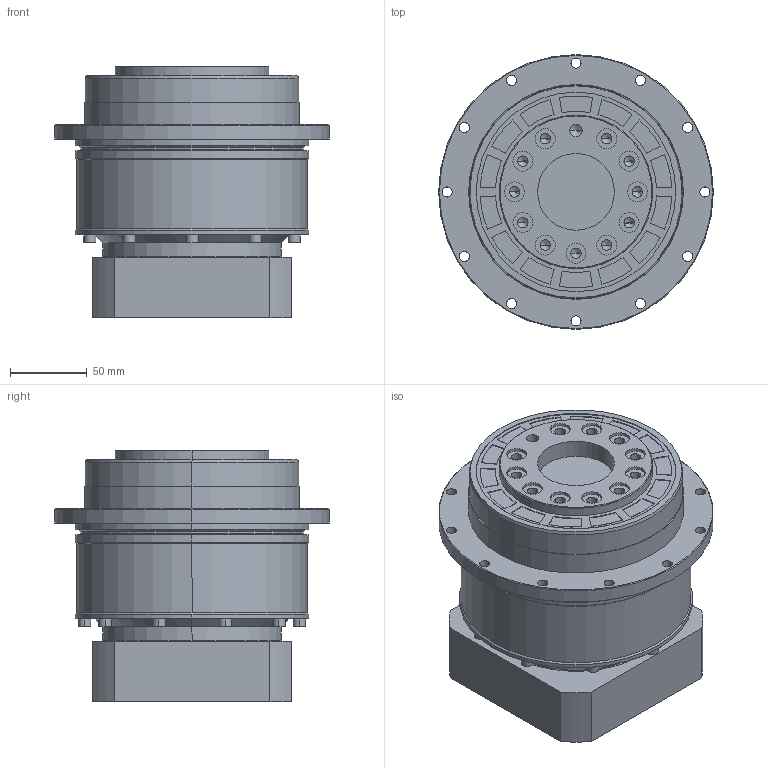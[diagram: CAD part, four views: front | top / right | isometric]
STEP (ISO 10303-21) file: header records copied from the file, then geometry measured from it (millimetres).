
FILE_DESCRIPTION (( 'STEP AP203' ), '1' );
FILE_NAME ('FAD140 - L1-22-110-145-M8.STEP', '2017-04-06T08:36:53', ( 'User' ), ( 'Microsoft' ), 'SwSTEP 2.0', 'SolidWorks 2014', '' );
FILE_SCHEMA (( 'CONFIG_CONTROL_DESIGN' ));
Length unit declared in the file: millimetre
Products named in the file (1): FAD140 - L1-22-110-145-M8
Bounding box: 179 x 179 x 164 mm (x, y, z)
Volume: 2450145.1 mm3; surface area: 181854.6 mm2
Topology: 1 solids, 1 shells, 464 faces, 1112 edges, 712 vertices
Faces by surface type: plane 216, cylinder 190, cone 52, torus 6
Entity records: 13525 total; most frequent: DIRECTION 2428, CARTESIAN_POINT 2343, ORIENTED_EDGE 2176, EDGE_CURVE 1088, AXIS2_PLACEMENT_3D 895, VERTEX_POINT 712, LINE 638, VECTOR 638
